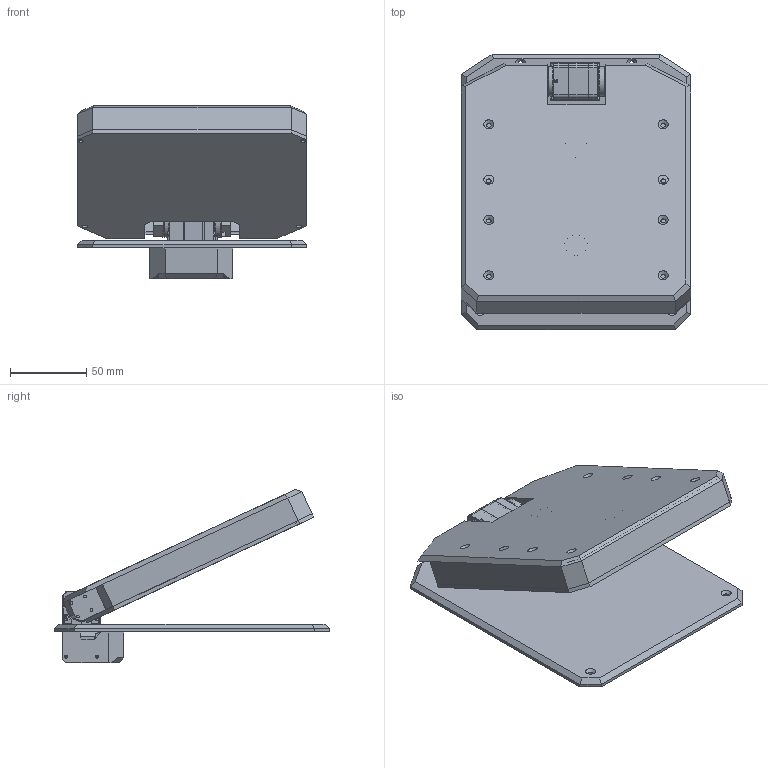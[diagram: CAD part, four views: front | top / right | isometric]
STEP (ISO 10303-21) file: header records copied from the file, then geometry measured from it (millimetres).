
FILE_DESCRIPTION(/* description */ (''),/* implementation_level */ '2;1');
FILE_NAME(/* name */ '',/* time_stamp */ '2026-08-23T01:30:59+08:00',/* author */ (''),/* organization */ (''),/* preprocessor_version */ 'ST-DEVELOPER v20.1',/* originating_system */ 'Autodesk Translation Framework v15.8.0.0',/* authorisation */ '');
FILE_SCHEMA (('AUTOMOTIVE_DESIGN { 1 0 10303 214 3 1 1 }'));
Products named in the file (7): V3 PRO; 机身盖子; 零部件15; 俯仰舵机底座; Document; 17DB天线全包围盖子; 17db外壳底部盖子
Assembly tree (6 placements, depth 3):
  V3 PRO
    机身盖子
      零部件15
    俯仰舵机底座
    Document
    17DB天线全包围盖子
    17db外壳底部盖子
Bounding box: 150.16 x 180 x 113.23 mm (x, y, z)
Volume: 316364.1 mm3; surface area: 204952.1 mm2
Topology: 22 solids, 22 shells, 1809 faces, 4894 edges, 3203 vertices
Faces by surface type: plane 966, cylinder 517, bspline 248, cone 45, torus 19, sphere 14
Full cylindrical faces by diameter (mm): 1.6 x15, 1.8 x29, 2 x4, 2.029 x4, 2.1 x4, 2.2 x14, 2.4 x2, 2.5 x13, 2.6 x1, 2.8 x1, 3 x28, 3.159 x1, 3.387 x4, 3.5 x2, 3.6 x4, 4 x2, 5 x2, 6 x3, 6.3 x2, 7 x1, 7.5 x2, 7.7 x2, 8 x2, 9 x2, 10 x2, 10.5 x1, 14.2 x4, 15 x2, 19.1 x2, 19.5 x2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
Entity records: 74989 total; most frequent: CARTESIAN_POINT 29675, ORIENTED_EDGE 9782, DIRECTION 8792, EDGE_CURVE 4891, VERTEX_POINT 3203, AXIS2_PLACEMENT_3D 2939, LINE 2914, VECTOR 2914
